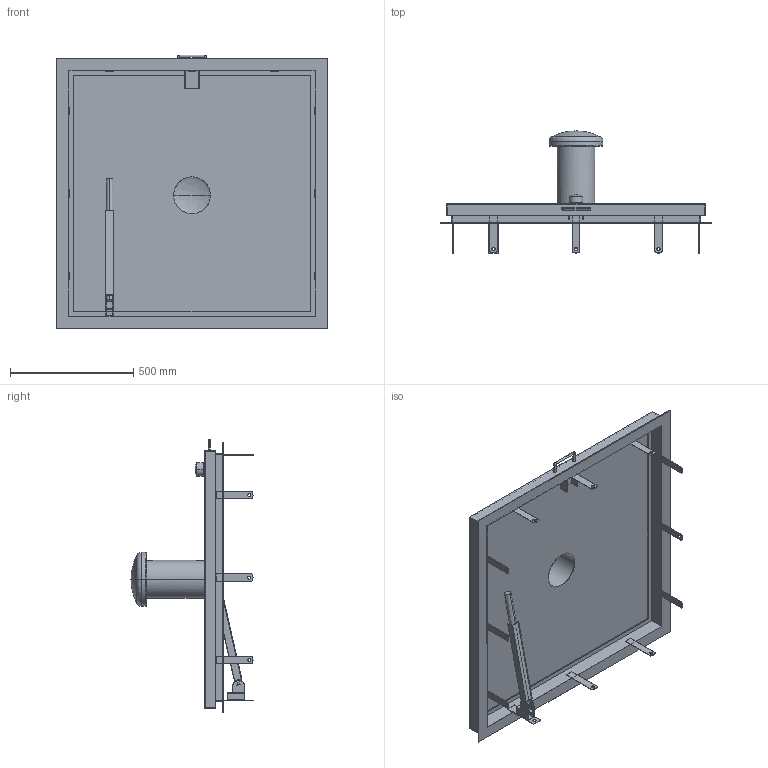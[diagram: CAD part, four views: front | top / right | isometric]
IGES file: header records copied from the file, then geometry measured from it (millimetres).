
Start section:  PTC IGES file: 52372548.igs
Global section: file name: 52372548.igs; native system: Creo Parametric by PTC Inc.; preprocessor: 2022162; author: wep; organization: Unknown; date: 20250320.142844; units: millimetre
Bounding box: 1100 x 496 x 1113 mm (x, y, z)
Surface area: 4242793.3 mm2 (no closed solid volume)
Topology: 0 solids, 0 shells, 787 faces, 4284 edges, 4274 vertices
Faces by surface type: bspline 441, extrusion 275, revolution 71
